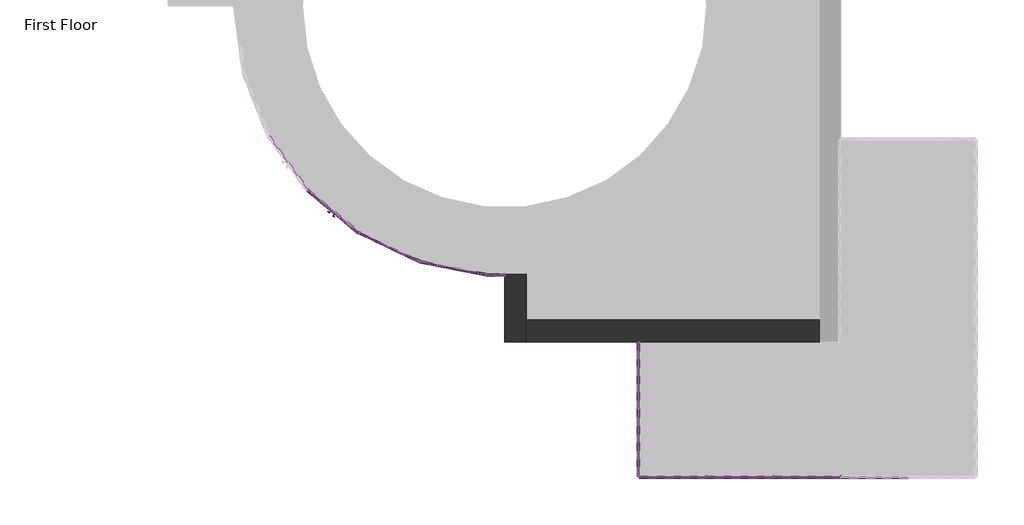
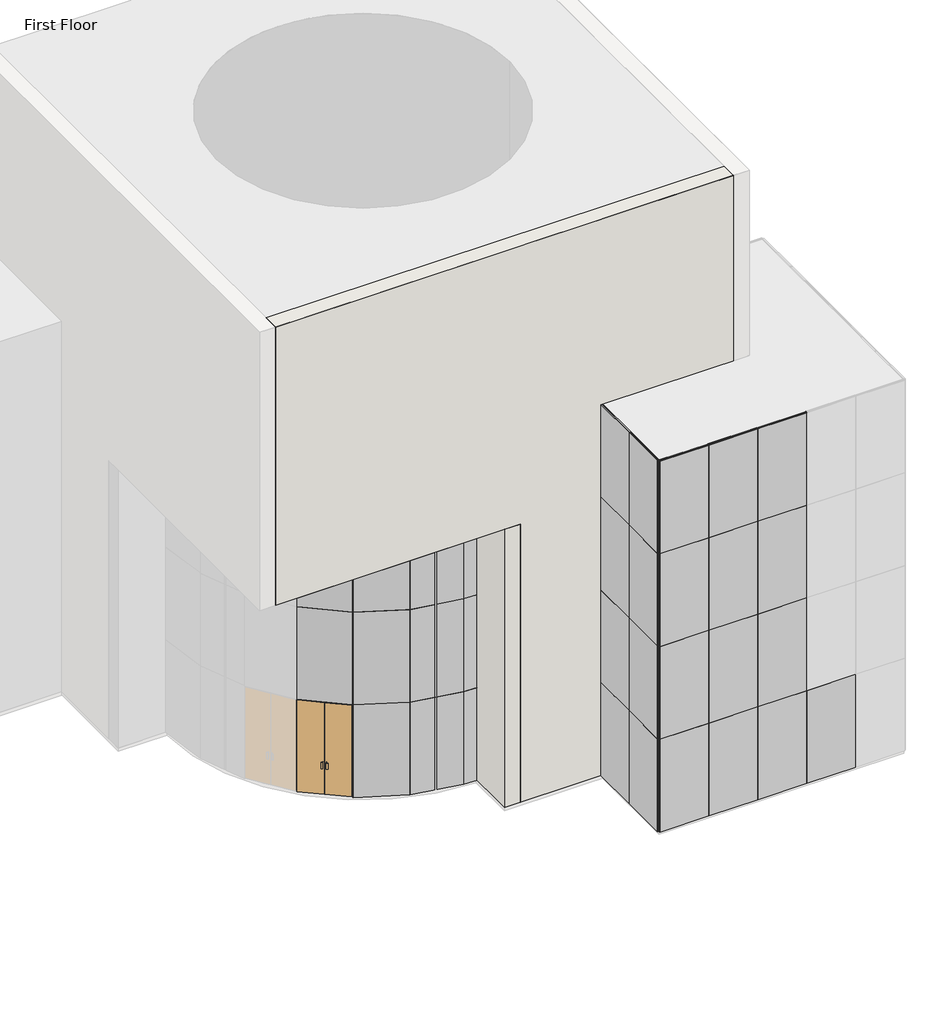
# One storey, part 1 of 4: 88 members, 32 plates, 2 walls, 1 door.
"""IFC4 building model written with IfcOpenShell, lengths in millimetres."""

from ifc_helpers import new_model, si_unit, origin, place, context, project, spatial, faceted_brep, transform, mapped, element, save
from components import door_curtain_wall_double_glass_door_curtain_wall_double_2d87b983, member_bc106393, member_cbdb9076, member_648f3f05, member_707bc92b, member_113f7001, member_7e523723, member_e16e0e7d, member_15743826, member_c4f80b05, member_9fd3d903, member_6604d1e0, system_panel_glazed_c0c5e10a, system_panel_glazed_21cc01a4

model = new_model("IFC4")

# Units and contexts
model_context = context("Model", 3, world=origin())
ifc_project = project(units=[si_unit("LENGTHUNIT", "METRE", prefix="MILLI")], contexts=[model_context])

# Site, building, storey
site = spatial("IfcSite", under=ifc_project)
building = spatial("IfcBuilding", under=site)
storey = spatial("IfcBuildingStorey", under=building, Name="First Floor", Elevation=0.0)

# Door
placement = place(None, origin())
door_curtain_wall_double_glass_door_curtain_wall_double_shape = door_curtain_wall_double_glass_door_curtain_wall_double_2d87b983(model_context)
element("IfcDoor", 1, ObjectType="Door-Curtain-Wall-Double-Glass : Door-Curtain-Wall-Double-Glass", at=placement, inside=storey, context=model_context, shape_type="MappedRepresentation", body=[
    mapped(door_curtain_wall_double_glass_door_curtain_wall_double_shape, transform((-7554.694628, -698.886035, 25.4), x_axis=(0.7690124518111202, -0.6392337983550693, 0.0), y_axis=(0.6392337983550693, 0.7690124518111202, 0.0), z_axis=(0.0, 0.0, 1.0))),
])

# Members
member_shape = member_bc106393(model_context)
element("IfcMember", 2, ObjectType="Rectangular Mullion : 1\" Square", at=placement, inside=storey, context=model_context, shape_type="MappedRepresentation", body=[
    mapped(member_shape, transform((-3713.8745683, -2142.9055451, 9144.0), x_axis=(0.0, 0.0, 1.0), y_axis=(-0.033424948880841, -0.999441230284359, 0.0), z_axis=(0.9994412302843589, -0.03342494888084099, 0.0))),
])
member_2_shape = member_cbdb9076(model_context)
element("IfcMember", 3, ObjectType="Rectangular Mullion : 1\" Square", at=placement, inside=storey, context=model_context, shape_type="MappedRepresentation", body=[
    mapped(member_2_shape, transform((-8140.6821163, -211.7898806, 0.0), x_axis=(0.6830766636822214, -0.7303466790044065, 0.0), y_axis=(-0.7303466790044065, -0.6830766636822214, 0.0), z_axis=(0.0, 0.0, -1.0))),
])
element("IfcMember", 4, ObjectType="Rectangular Mullion : 1\" Square", at=placement, inside=storey, context=model_context, shape_type="MappedRepresentation", body=[
    mapped(member_2_shape, transform((-6968.7071397, -1185.9821893, 0.0), x_axis=(0.8428851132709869, -0.538093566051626, 0.0), y_axis=(-0.538093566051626, -0.8428851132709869, 0.0), z_axis=(0.0, 0.0, -1.0))),
])
element("IfcMember", 5, ObjectType="Rectangular Mullion : 1\" Square", at=placement, inside=storey, context=model_context, shape_type="MappedRepresentation", body=[
    mapped(member_2_shape, transform((-5591.7185145, -1839.0352699, 0.0), x_axis=(0.9500132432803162, -0.3122096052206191, 0.0), y_axis=(-0.3122096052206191, -0.9500132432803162, 0.0), z_axis=(0.0, 0.0, -1.0))),
])
element("IfcMember", 6, ObjectType="Rectangular Mullion : 1\" Square", at=placement, inside=storey, context=model_context, shape_type="MappedRepresentation", body=[
    mapped(member_2_shape, transform((-4095.7780297, -2130.1333047, 0.0), x_axis=(0.9977655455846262, -0.06681254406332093, 0.0), y_axis=(-0.06681254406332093, -0.9977655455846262, 0.0), z_axis=(0.0, 0.0, -1.0))),
])
element("IfcMember", 7, ObjectType="Rectangular Mullion : 1\" Square", at=placement, inside=storey, context=model_context, shape_type="MappedRepresentation", body=[
    mapped(member_2_shape, transform((-640.4887611, -5191.7545391, 0.0), x_axis=(0.0, -1.0, 0.0), y_axis=(-1.0, 0.0, 0.0), z_axis=(0.0, 0.0, -1.0))),
])
element("IfcMember", 8, ObjectType="Rectangular Mullion : 1\" Square", at=placement, inside=storey, context=model_context, shape_type="MappedRepresentation", body=[
    mapped(member_2_shape, transform((883.5112392, -6715.7545388, 0.0), x_axis=(1.0, 0.0, 0.0), y_axis=(0.0, -1.0, 0.0), z_axis=(0.0, 0.0, -1.0))),
])
element("IfcMember", 9, ObjectType="Rectangular Mullion : 1\" Square", at=placement, inside=storey, context=model_context, shape_type="MappedRepresentation", body=[
    mapped(member_2_shape, transform((2407.5112392, -6715.7545388, 0.0), x_axis=(1.0, 0.0, 0.0), y_axis=(0.0, -1.0, 0.0), z_axis=(0.0, 0.0, -1.0))),
])
element("IfcMember", 10, ObjectType="Rectangular Mullion : 1\" Square", at=placement, inside=storey, context=model_context, shape_type="MappedRepresentation", body=[
    mapped(member_2_shape, transform((3931.5112392, -6715.7545388, 0.0), x_axis=(1.0, 0.0, 0.0), y_axis=(0.0, -1.0, 0.0), z_axis=(0.0, 0.0, -1.0))),
])
member_3_shape = member_648f3f05(model_context)
element("IfcMember", 11, ObjectType="Rectangular Mullion : 1\" Square", at=placement, inside=storey, context=model_context, shape_type="MappedRepresentation", body=[
    mapped(member_3_shape, transform((-8148.1297237, -201.502843, 3048.0), x_axis=(0.0, 0.0, 1.0), y_axis=(-0.8100029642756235, -0.5864257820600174, 0.0), z_axis=(0.5864257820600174, -0.8100029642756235, 0.0))),
])
element("IfcMember", 12, ObjectType="Rectangular Mullion : 1\" Square", at=placement, inside=storey, context=model_context, shape_type="MappedRepresentation", body=[
    mapped(member_3_shape, transform((-6978.4735978, -1177.8639201, 3048.0), x_axis=(0.0, 0.0, 1.0), y_axis=(-0.6392337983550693, -0.7690124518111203, 0.0), z_axis=(0.7690124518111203, -0.6392337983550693, 0.0))),
])
element("IfcMember", 13, ObjectType="Rectangular Mullion : 1\" Square", at=placement, inside=storey, context=model_context, shape_type="MappedRepresentation", body=[
    mapped(member_3_shape, transform((-5603.1934197, -1833.5931609, 3048.0), x_axis=(0.0, 0.0, 1.0), y_axis=(-0.42851252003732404, -0.9035358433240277, 0.0), z_axis=(0.9035358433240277, -0.42851252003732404, 0.0))),
])
element("IfcMember", 14, ObjectType="Rectangular Mullion : 1\" Square", at=placement, inside=storey, context=model_context, shape_type="MappedRepresentation", body=[
    mapped(member_3_shape, transform((-4108.2442004, -2127.7074878, 3048.0), x_axis=(0.0, 0.0, 1.0), y_axis=(-0.1910092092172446, -0.981588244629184, 0.0), z_axis=(0.981588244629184, -0.1910092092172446, 0.0))),
])
element("IfcMember", 15, ObjectType="Rectangular Mullion : 1\" Square", at=placement, inside=storey, context=model_context, shape_type="MappedRepresentation", body=[
    mapped(member_3_shape, transform((-8148.1297237, -201.502843, 6096.0), x_axis=(0.0, 0.0, 1.0), y_axis=(-0.8100029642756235, -0.5864257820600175, 0.0), z_axis=(0.5864257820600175, -0.8100029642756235, 0.0))),
])
element("IfcMember", 16, ObjectType="Rectangular Mullion : 1\" Square", at=placement, inside=storey, context=model_context, shape_type="MappedRepresentation", body=[
    mapped(member_3_shape, transform((-6978.4735978, -1177.8639201, 6096.0), x_axis=(0.0, 0.0, 1.0), y_axis=(-0.6392337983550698, -0.7690124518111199, 0.0), z_axis=(0.7690124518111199, -0.6392337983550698, 0.0))),
])
element("IfcMember", 17, ObjectType="Rectangular Mullion : 1\" Square", at=placement, inside=storey, context=model_context, shape_type="MappedRepresentation", body=[
    mapped(member_3_shape, transform((-5603.1934197, -1833.5931609, 6096.0), x_axis=(0.0, 0.0, 1.0), y_axis=(-0.42851252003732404, -0.9035358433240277, 0.0), z_axis=(0.9035358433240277, -0.42851252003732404, 0.0))),
])
element("IfcMember", 18, ObjectType="Rectangular Mullion : 1\" Square", at=placement, inside=storey, context=model_context, shape_type="MappedRepresentation", body=[
    mapped(member_3_shape, transform((-4108.2442004, -2127.7074878, 6096.0), x_axis=(0.0, 0.0, 1.0), y_axis=(-0.1910092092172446, -0.981588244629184, 0.0), z_axis=(0.981588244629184, -0.1910092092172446, 0.0))),
])
member_4_shape = member_707bc92b(model_context)
element("IfcMember", 19, ObjectType="Rectangular Mullion : 1\" Square", at=placement, inside=storey, context=model_context, shape_type="MappedRepresentation", body=[
    mapped(member_4_shape, transform((-3713.8745683, -2142.9055451, 3048.0), x_axis=(0.0, 0.0, 1.0), y_axis=(-0.033424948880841, -0.999441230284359, 0.0), z_axis=(0.9994412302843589, -0.03342494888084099, 0.0))),
])
element("IfcMember", 20, ObjectType="Rectangular Mullion : 1\" Square", at=placement, inside=storey, context=model_context, shape_type="MappedRepresentation", body=[
    mapped(member_4_shape, transform((-3713.8745683, -2142.9055451, 6096.0), x_axis=(0.0, 0.0, 1.0), y_axis=(-0.033424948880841, -0.999441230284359, 0.0), z_axis=(0.9994412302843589, -0.03342494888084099, 0.0))),
])
member_5_shape = member_113f7001(model_context)
element("IfcMember", 21, ObjectType="Rectangular Mullion : 1\" Square", at=placement, inside=storey, context=model_context, shape_type="MappedRepresentation", body=[
    mapped(member_5_shape, transform((-8130.9156581, -219.9081499, 0.0), x_axis=(0.0, 0.0, -1.0), y_axis=(-0.6392337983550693, -0.7690124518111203, 0.0), z_axis=(-0.7690124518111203, 0.6392337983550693, 0.0))),
])
element("IfcMember", 22, ObjectType="Rectangular Mullion : 1\" Square", at=placement, inside=storey, context=model_context, shape_type="MappedRepresentation", body=[
    mapped(member_5_shape, transform((-6957.2322345, -1191.4242983, 0.0), x_axis=(0.0, 0.0, -1.0), y_axis=(-0.42851252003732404, -0.9035358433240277, 0.0), z_axis=(-0.9035358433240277, 0.42851252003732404, 0.0))),
])
element("IfcMember", 23, ObjectType="Rectangular Mullion : 1\" Square", at=placement, inside=storey, context=model_context, shape_type="MappedRepresentation", body=[
    mapped(member_5_shape, transform((-5579.2523438, -1841.4610868, 0.0), x_axis=(0.0, 0.0, -1.0), y_axis=(-0.1910092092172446, -0.9815882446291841, 0.0), z_axis=(-0.9815882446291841, 0.1910092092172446, 0.0))),
])
element("IfcMember", 24, ObjectType="Rectangular Mullion : 1\" Square", at=placement, inside=storey, context=model_context, shape_type="MappedRepresentation", body=[
    mapped(member_shape, transform((-4083.085126, -2130.5578016, 0.0), x_axis=(0.0, 0.0, -1.0), y_axis=(-0.033424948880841, -0.999441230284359, 0.0), z_axis=(-0.9994412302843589, 0.03342494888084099, 0.0))),
])
element("IfcMember", 25, ObjectType="Rectangular Mullion : 1\" Square", at=placement, inside=storey, context=model_context, shape_type="MappedRepresentation", body=[
    mapped(member_5_shape, transform((-8148.1297237, -201.502843, 9144.0), x_axis=(0.0, 0.0, 1.0), y_axis=(-0.8100029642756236, -0.5864257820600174, 0.0), z_axis=(0.5864257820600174, -0.8100029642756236, 0.0))),
])
element("IfcMember", 26, ObjectType="Rectangular Mullion : 1\" Square", at=placement, inside=storey, context=model_context, shape_type="MappedRepresentation", body=[
    mapped(member_5_shape, transform((-6978.4735978, -1177.8639201, 9144.0), x_axis=(0.0, 0.0, 1.0), y_axis=(-0.6392337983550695, -0.7690124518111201, 0.0), z_axis=(0.7690124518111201, -0.6392337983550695, 0.0))),
])
element("IfcMember", 27, ObjectType="Rectangular Mullion : 1\" Square", at=placement, inside=storey, context=model_context, shape_type="MappedRepresentation", body=[
    mapped(member_5_shape, transform((-5603.1934197, -1833.5931609, 9144.0), x_axis=(0.0, 0.0, 1.0), y_axis=(-0.42851252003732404, -0.9035358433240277, 0.0), z_axis=(0.9035358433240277, -0.42851252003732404, 0.0))),
])
element("IfcMember", 28, ObjectType="Rectangular Mullion : 1\" Square", at=placement, inside=storey, context=model_context, shape_type="MappedRepresentation", body=[
    mapped(member_5_shape, transform((-4108.2442004, -2127.7074878, 9144.0), x_axis=(0.0, 0.0, 1.0), y_axis=(-0.1910092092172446, -0.9815882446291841, 0.0), z_axis=(0.9815882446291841, -0.1910092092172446, 0.0))),
])
element("IfcMember", 29, ObjectType="Rectangular Mullion : 1\" Square", at=placement, inside=storey, context=model_context, shape_type="MappedRepresentation", body=[
    mapped(member_2_shape, transform((-8140.6821163, -211.7898806, 3048.0), x_axis=(0.6830766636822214, -0.7303466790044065, 0.0), y_axis=(-0.7303466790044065, -0.6830766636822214, 0.0), z_axis=(0.0, 0.0, -1.0))),
])
element("IfcMember", 30, ObjectType="Rectangular Mullion : 1\" Square", at=placement, inside=storey, context=model_context, shape_type="MappedRepresentation", body=[
    mapped(member_2_shape, transform((-6968.7071397, -1185.9821893, 3048.0), x_axis=(0.8428851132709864, -0.5380935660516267, 0.0), y_axis=(-0.5380935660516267, -0.8428851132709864, 0.0), z_axis=(0.0, 0.0, -1.0))),
])
element("IfcMember", 31, ObjectType="Rectangular Mullion : 1\" Square", at=placement, inside=storey, context=model_context, shape_type="MappedRepresentation", body=[
    mapped(member_2_shape, transform((-5591.7185145, -1839.0352699, 3048.0), x_axis=(0.9500132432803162, -0.3122096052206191, 0.0), y_axis=(-0.3122096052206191, -0.9500132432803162, 0.0), z_axis=(0.0, 0.0, -1.0))),
])
element("IfcMember", 32, ObjectType="Rectangular Mullion : 1\" Square", at=placement, inside=storey, context=model_context, shape_type="MappedRepresentation", body=[
    mapped(member_2_shape, transform((-4095.7780297, -2130.1333047, 3048.0), x_axis=(0.9977655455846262, -0.06681254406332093, 0.0), y_axis=(-0.06681254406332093, -0.9977655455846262, 0.0), z_axis=(0.0, 0.0, -1.0))),
])
element("IfcMember", 33, ObjectType="Rectangular Mullion : 1\" Square", at=placement, inside=storey, context=model_context, shape_type="MappedRepresentation", body=[
    mapped(member_2_shape, transform((-640.4887611, -5191.7545391, 3048.0), x_axis=(0.0, -1.0, 0.0), y_axis=(-1.0, 0.0, 0.0), z_axis=(0.0, 0.0, -1.0))),
])
element("IfcMember", 34, ObjectType="Rectangular Mullion : 1\" Square", at=placement, inside=storey, context=model_context, shape_type="MappedRepresentation", body=[
    mapped(member_2_shape, transform((-640.4887611, -5191.7545391, 6096.0), x_axis=(0.0, -1.0, 0.0), y_axis=(-1.0, 0.0, 0.0), z_axis=(0.0, 0.0, -1.0))),
])
element("IfcMember", 35, ObjectType="Rectangular Mullion : 1\" Square", at=placement, inside=storey, context=model_context, shape_type="MappedRepresentation", body=[
    mapped(member_2_shape, transform((883.5112392, -6715.7545388, 3048.0), x_axis=(1.0, 0.0, 0.0), y_axis=(0.0, -1.0, 0.0), z_axis=(0.0, 0.0, -1.0))),
])
element("IfcMember", 36, ObjectType="Rectangular Mullion : 1\" Square", at=placement, inside=storey, context=model_context, shape_type="MappedRepresentation", body=[
    mapped(member_2_shape, transform((883.5112392, -6715.7545388, 6096.0), x_axis=(1.0, 0.0, 0.0), y_axis=(0.0, -1.0, 0.0), z_axis=(0.0, 0.0, -1.0))),
])
element("IfcMember", 37, ObjectType="Rectangular Mullion : 1\" Square", at=placement, inside=storey, context=model_context, shape_type="MappedRepresentation", body=[
    mapped(member_2_shape, transform((2407.5112392, -6715.7545388, 3048.0), x_axis=(1.0, 0.0, 0.0), y_axis=(0.0, -1.0, 0.0), z_axis=(0.0, 0.0, -1.0))),
])
element("IfcMember", 38, ObjectType="Rectangular Mullion : 1\" Square", at=placement, inside=storey, context=model_context, shape_type="MappedRepresentation", body=[
    mapped(member_2_shape, transform((2407.5112392, -6715.7545388, 6096.0), x_axis=(1.0, 0.0, 0.0), y_axis=(0.0, -1.0, 0.0), z_axis=(0.0, 0.0, -1.0))),
])
element("IfcMember", 39, ObjectType="Rectangular Mullion : 1\" Square", at=placement, inside=storey, context=model_context, shape_type="MappedRepresentation", body=[
    mapped(member_2_shape, transform((3931.5112392, -6715.7545388, 3048.0), x_axis=(1.0, 0.0, 0.0), y_axis=(0.0, -1.0, 0.0), z_axis=(0.0, 0.0, -1.0))),
])
element("IfcMember", 40, ObjectType="Rectangular Mullion : 1\" Square", at=placement, inside=storey, context=model_context, shape_type="MappedRepresentation", body=[
    mapped(member_2_shape, transform((3931.5112392, -6715.7545388, 6096.0), x_axis=(1.0, 0.0, 0.0), y_axis=(0.0, -1.0, 0.0), z_axis=(0.0, 0.0, -1.0))),
])
element("IfcMember", 41, ObjectType="Rectangular Mullion : 1\" Square", at=placement, inside=storey, context=model_context, shape_type="MappedRepresentation", body=[
    mapped(member_2_shape, transform((-8140.6821163, -211.7898806, 6096.0), x_axis=(0.6830766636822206, -0.7303466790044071, 0.0), y_axis=(-0.7303466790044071, -0.6830766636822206, 0.0), z_axis=(0.0, 0.0, -1.0))),
])
element("IfcMember", 42, ObjectType="Rectangular Mullion : 1\" Square", at=placement, inside=storey, context=model_context, shape_type="MappedRepresentation", body=[
    mapped(member_2_shape, transform((-6968.7071397, -1185.9821893, 6096.0), x_axis=(0.8428851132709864, -0.5380935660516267, 0.0), y_axis=(-0.5380935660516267, -0.8428851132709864, 0.0), z_axis=(0.0, 0.0, -1.0))),
])
element("IfcMember", 43, ObjectType="Rectangular Mullion : 1\" Square", at=placement, inside=storey, context=model_context, shape_type="MappedRepresentation", body=[
    mapped(member_2_shape, transform((-5591.7185145, -1839.0352699, 6096.0), x_axis=(0.9500132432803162, -0.3122096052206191, 0.0), y_axis=(-0.3122096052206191, -0.9500132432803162, 0.0), z_axis=(0.0, 0.0, -1.0))),
])
element("IfcMember", 44, ObjectType="Rectangular Mullion : 1\" Square", at=placement, inside=storey, context=model_context, shape_type="MappedRepresentation", body=[
    mapped(member_2_shape, transform((-4095.7780297, -2130.1333047, 6096.0), x_axis=(0.9977655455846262, -0.06681254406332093, 0.0), y_axis=(-0.06681254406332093, -0.9977655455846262, 0.0), z_axis=(0.0, 0.0, -1.0))),
])
element("IfcMember", 45, ObjectType="Rectangular Mullion : 1\" Square", at=placement, inside=storey, context=model_context, shape_type="MappedRepresentation", body=[
    mapped(member_2_shape, transform((-640.4887611, -5191.7545391, 9144.0), x_axis=(0.0, -1.0, 0.0), y_axis=(-1.0, 0.0, 0.0), z_axis=(0.0, 0.0, -1.0))),
])
element("IfcMember", 46, ObjectType="Rectangular Mullion : 1\" Square", at=placement, inside=storey, context=model_context, shape_type="MappedRepresentation", body=[
    mapped(member_2_shape, transform((883.5112392, -6715.7545388, 9144.0), x_axis=(1.0, 0.0, 0.0), y_axis=(0.0, -1.0, 0.0), z_axis=(0.0, 0.0, -1.0))),
])
element("IfcMember", 47, ObjectType="Rectangular Mullion : 1\" Square", at=placement, inside=storey, context=model_context, shape_type="MappedRepresentation", body=[
    mapped(member_2_shape, transform((2407.5112392, -6715.7545388, 9144.0), x_axis=(1.0, 0.0, 0.0), y_axis=(0.0, -1.0, 0.0), z_axis=(0.0, 0.0, -1.0))),
])
element("IfcMember", 48, ObjectType="Rectangular Mullion : 1\" Square", at=placement, inside=storey, context=model_context, shape_type="MappedRepresentation", body=[
    mapped(member_2_shape, transform((3931.5112392, -6715.7545388, 9144.0), x_axis=(1.0, 0.0, 0.0), y_axis=(0.0, -1.0, 0.0), z_axis=(0.0, 0.0, -1.0))),
])
member_6_shape = member_7e523723(model_context)
element("IfcMember", 49, ObjectType="Rectangular Mullion : 1\" Square", at=placement, inside=storey, context=model_context, shape_type="MappedRepresentation", body=[
    mapped(member_6_shape, transform((-3688.4887611, -2143.7545388, 0.0), x_axis=(0.999441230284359, -0.033424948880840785, 0.0), y_axis=(-0.033424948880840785, -0.999441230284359, 0.0), z_axis=(0.0, 0.0, -1.0))),
])
element("IfcMember", 50, ObjectType="Rectangular Mullion : 1\" Square", at=placement, inside=storey, context=model_context, shape_type="MappedRepresentation", body=[
    mapped(member_6_shape, transform((-640.4887611, -6715.7545388, 0.0), x_axis=(0.0, -1.0, 0.0), y_axis=(-1.0, 0.0, 0.0), z_axis=(0.0, 0.0, -1.0))),
])
element("IfcMember", 51, ObjectType="Rectangular Mullion : 1\" Square", at=placement, inside=storey, context=model_context, shape_type="MappedRepresentation", body=[
    mapped(member_6_shape, transform((-640.4887611, -3667.7545388, 12192.0), x_axis=(0.0, 1.0, 0.0), y_axis=(-1.0, 0.0, 0.0), z_axis=(0.0, 0.0, 1.0))),
])
element("IfcMember", 52, ObjectType="Rectangular Mullion : 1\" Square", at=placement, inside=storey, context=model_context, shape_type="MappedRepresentation", body=[
    mapped(member_6_shape, transform((-640.4887611, -6715.7545388, 12192.0), x_axis=(-1.0, 0.0, 0.0), y_axis=(0.0, -1.0, 0.0), z_axis=(0.0, 0.0, 1.0))),
])
element("IfcMember", 53, ObjectType="Rectangular Mullion : 1\" Square", at=placement, inside=storey, context=model_context, shape_type="MappedRepresentation", body=[
    mapped(member_6_shape, transform((-640.4887611, -3667.7545388, 3048.0), x_axis=(0.0, 1.0, 0.0), y_axis=(-1.0, 0.0, 0.0), z_axis=(0.0, 0.0, 1.0))),
])
element("IfcMember", 54, ObjectType="Rectangular Mullion : 1\" Square", at=placement, inside=storey, context=model_context, shape_type="MappedRepresentation", body=[
    mapped(member_6_shape, transform((-640.4887611, -6715.7545388, 3048.0), x_axis=(-1.0, 0.0, 0.0), y_axis=(0.0, -1.0, 0.0), z_axis=(0.0, 0.0, 1.0))),
])
element("IfcMember", 55, ObjectType="Rectangular Mullion : 1\" Square", at=placement, inside=storey, context=model_context, shape_type="MappedRepresentation", body=[
    mapped(member_6_shape, transform((-640.4887611, -3667.7545388, 6096.0), x_axis=(0.0, 1.0, 0.0), y_axis=(-1.0, 0.0, 0.0), z_axis=(0.0, 0.0, 1.0))),
])
element("IfcMember", 56, ObjectType="Rectangular Mullion : 1\" Square", at=placement, inside=storey, context=model_context, shape_type="MappedRepresentation", body=[
    mapped(member_6_shape, transform((-640.4887611, -3667.7545388, 9144.0), x_axis=(0.0, 1.0, 0.0), y_axis=(-1.0, 0.0, 0.0), z_axis=(0.0, 0.0, 1.0))),
])
element("IfcMember", 57, ObjectType="Rectangular Mullion : 1\" Square", at=placement, inside=storey, context=model_context, shape_type="MappedRepresentation", body=[
    mapped(member_6_shape, transform((-640.4887611, -6715.7545388, 6096.0), x_axis=(-1.0, 0.0, 0.0), y_axis=(0.0, -1.0, 0.0), z_axis=(0.0, 0.0, 1.0))),
])
element("IfcMember", 58, ObjectType="Rectangular Mullion : 1\" Square", at=placement, inside=storey, context=model_context, shape_type="MappedRepresentation", body=[
    mapped(member_6_shape, transform((-640.4887611, -6715.7545388, 9144.0), x_axis=(-1.0, 0.0, 0.0), y_axis=(0.0, -1.0, 0.0), z_axis=(0.0, 0.0, 1.0))),
])
element("IfcMember", 59, ObjectType="Rectangular Mullion : 1\" Square", at=placement, inside=storey, context=model_context, shape_type="MappedRepresentation", body=[
    mapped(member_6_shape, transform((-3688.4887611, -2143.7545388, 3048.0), x_axis=(0.999441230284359, -0.033424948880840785, 0.0), y_axis=(-0.033424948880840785, -0.999441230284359, 0.0), z_axis=(0.0, 0.0, -1.0))),
])
element("IfcMember", 60, ObjectType="Rectangular Mullion : 1\" Square", at=placement, inside=storey, context=model_context, shape_type="MappedRepresentation", body=[
    mapped(member_6_shape, transform((-640.4887611, -6715.7545388, 3048.0), x_axis=(0.0, -1.0, 0.0), y_axis=(-1.0, 0.0, 0.0), z_axis=(0.0, 0.0, -1.0))),
])
element("IfcMember", 61, ObjectType="Rectangular Mullion : 1\" Square", at=placement, inside=storey, context=model_context, shape_type="MappedRepresentation", body=[
    mapped(member_6_shape, transform((-640.4887611, -6715.7545388, 6096.0), x_axis=(0.0, -1.0, 0.0), y_axis=(-1.0, 0.0, 0.0), z_axis=(0.0, 0.0, -1.0))),
])
element("IfcMember", 62, ObjectType="Rectangular Mullion : 1\" Square", at=placement, inside=storey, context=model_context, shape_type="MappedRepresentation", body=[
    mapped(member_6_shape, transform((-3688.4887611, -2143.7545388, 6096.0), x_axis=(0.999441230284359, -0.033424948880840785, 0.0), y_axis=(-0.033424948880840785, -0.999441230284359, 0.0), z_axis=(0.0, 0.0, -1.0))),
])
element("IfcMember", 63, ObjectType="Rectangular Mullion : 1\" Square", at=placement, inside=storey, context=model_context, shape_type="MappedRepresentation", body=[
    mapped(member_6_shape, transform((-640.4887611, -6715.7545388, 9144.0), x_axis=(0.0, -1.0, 0.0), y_axis=(-1.0, 0.0, 0.0), z_axis=(0.0, 0.0, -1.0))),
])
member_7_shape = member_e16e0e7d(model_context)
element("IfcMember", 64, ObjectType="Rectangular Mullion : 1\" Square", at=placement, inside=storey, context=model_context, shape_type="MappedRepresentation", body=[
    mapped(member_7_shape, transform((-640.4887611, -6690.3545388, 12192.0), x_axis=(0.0, 0.0, 1.0), y_axis=(-1.0, 0.0, 0.0), z_axis=(0.0, -1.0, 0.0))),
])
element("IfcMember", 65, ObjectType="Rectangular Mullion : 1\" Square", at=placement, inside=storey, context=model_context, shape_type="MappedRepresentation", body=[
    mapped(member_7_shape, transform((-640.4887611, -5179.0545391, 12192.0), x_axis=(0.0, 0.0, 1.0), y_axis=(-1.0, 0.0, 0.0), z_axis=(0.0, -1.0, 0.0))),
])
element("IfcMember", 66, ObjectType="Rectangular Mullion : 1\" Square", at=placement, inside=storey, context=model_context, shape_type="MappedRepresentation", body=[
    mapped(member_7_shape, transform((870.8112392, -6715.7545388, 12192.0), x_axis=(0.0, 0.0, 1.0), y_axis=(0.0, -1.0, 0.0), z_axis=(1.0, 0.0, 0.0))),
])
member_8_shape = member_15743826(model_context)
element("IfcMember", 67, ObjectType="Rectangular Mullion : 1\" Square", at=placement, inside=storey, context=model_context, shape_type="MappedRepresentation", body=[
    mapped(member_8_shape, transform((-640.4887611, -3693.1545388, 0.0), x_axis=(0.0, 0.0, -1.0), y_axis=(-1.0, 0.0, 0.0), z_axis=(0.0, 1.0, 0.0))),
])
element("IfcMember", 68, ObjectType="Rectangular Mullion : 1\" Square", at=placement, inside=storey, context=model_context, shape_type="MappedRepresentation", body=[
    mapped(member_8_shape, transform((-640.4887611, -5204.4545391, 0.0), x_axis=(0.0, 0.0, -1.0), y_axis=(-1.0, 0.0, 0.0), z_axis=(0.0, 1.0, 0.0))),
])
element("IfcMember", 69, ObjectType="Rectangular Mullion : 1\" Square", at=placement, inside=storey, context=model_context, shape_type="MappedRepresentation", body=[
    mapped(member_8_shape, transform((-615.0887611, -6715.7545388, 0.0), x_axis=(0.0, 0.0, -1.0), y_axis=(0.0, -1.0, 0.0), z_axis=(-1.0, 0.0, 0.0))),
])
member_9_shape = member_c4f80b05(model_context)
element("IfcMember", 70, ObjectType="Rectangular Mullion : 1\" Square", at=placement, inside=storey, context=model_context, shape_type="MappedRepresentation", body=[
    mapped(member_9_shape, transform((-640.4887611, -5179.0545391, 3048.0), x_axis=(0.0, 0.0, 1.0), y_axis=(-1.0, 0.0, 0.0), z_axis=(0.0, -1.0, 0.0))),
])
element("IfcMember", 71, ObjectType="Rectangular Mullion : 1\" Square", at=placement, inside=storey, context=model_context, shape_type="MappedRepresentation", body=[
    mapped(member_9_shape, transform((-640.4887611, -6690.3545388, 3048.0), x_axis=(0.0, 0.0, 1.0), y_axis=(-1.0, 0.0, 0.0), z_axis=(0.0, -1.0, 0.0))),
])
element("IfcMember", 72, ObjectType="Rectangular Mullion : 1\" Square", at=placement, inside=storey, context=model_context, shape_type="MappedRepresentation", body=[
    mapped(member_9_shape, transform((-640.4887611, -5179.0545391, 6096.0), x_axis=(0.0, 0.0, 1.0), y_axis=(-1.0, 0.0, 0.0), z_axis=(0.0, -1.0, 0.0))),
])
element("IfcMember", 73, ObjectType="Rectangular Mullion : 1\" Square", at=placement, inside=storey, context=model_context, shape_type="MappedRepresentation", body=[
    mapped(member_9_shape, transform((-640.4887611, -6690.3545388, 6096.0), x_axis=(0.0, 0.0, 1.0), y_axis=(-1.0, 0.0, 0.0), z_axis=(0.0, -1.0, 0.0))),
])
element("IfcMember", 74, ObjectType="Rectangular Mullion : 1\" Square", at=placement, inside=storey, context=model_context, shape_type="MappedRepresentation", body=[
    mapped(member_9_shape, transform((-640.4887611, -5179.0545391, 9144.0), x_axis=(0.0, 0.0, 1.0), y_axis=(-1.0, 0.0, 0.0), z_axis=(0.0, -1.0, 0.0))),
])
element("IfcMember", 75, ObjectType="Rectangular Mullion : 1\" Square", at=placement, inside=storey, context=model_context, shape_type="MappedRepresentation", body=[
    mapped(member_9_shape, transform((-640.4887611, -6690.3545388, 9144.0), x_axis=(0.0, 0.0, 1.0), y_axis=(-1.0, 0.0, 0.0), z_axis=(0.0, -1.0, 0.0))),
])
element("IfcMember", 76, ObjectType="Rectangular Mullion : 1\" Square", at=placement, inside=storey, context=model_context, shape_type="MappedRepresentation", body=[
    mapped(member_9_shape, transform((870.8112392, -6715.7545388, 3048.0), x_axis=(0.0, 0.0, 1.0), y_axis=(0.0, -1.0, 0.0), z_axis=(1.0, 0.0, 0.0))),
])
element("IfcMember", 77, ObjectType="Rectangular Mullion : 1\" Square", at=placement, inside=storey, context=model_context, shape_type="MappedRepresentation", body=[
    mapped(member_9_shape, transform((870.8112392, -6715.7545388, 6096.0), x_axis=(0.0, 0.0, 1.0), y_axis=(0.0, -1.0, 0.0), z_axis=(1.0, 0.0, 0.0))),
])
element("IfcMember", 78, ObjectType="Rectangular Mullion : 1\" Square", at=placement, inside=storey, context=model_context, shape_type="MappedRepresentation", body=[
    mapped(member_9_shape, transform((870.8112392, -6715.7545388, 9144.0), x_axis=(0.0, 0.0, 1.0), y_axis=(0.0, -1.0, 0.0), z_axis=(1.0, 0.0, 0.0))),
])
member_10_shape = member_9fd3d903(model_context)
element("IfcMember", 79, ObjectType="Rectangular Mullion : 1\" Square", at=placement, inside=storey, context=model_context, shape_type="MappedRepresentation", body=[
    mapped(member_10_shape, transform((2394.8112392, -6715.7545388, 3048.0), x_axis=(0.0, 0.0, 1.0), y_axis=(0.0, -1.0, 0.0), z_axis=(1.0, 0.0, 0.0))),
])
element("IfcMember", 80, ObjectType="Rectangular Mullion : 1\" Square", at=placement, inside=storey, context=model_context, shape_type="MappedRepresentation", body=[
    mapped(member_10_shape, transform((3918.8112392, -6715.7545388, 3048.0), x_axis=(0.0, 0.0, 1.0), y_axis=(0.0, -1.0, 0.0), z_axis=(1.0, 0.0, 0.0))),
])
element("IfcMember", 81, ObjectType="Rectangular Mullion : 1\" Square", at=placement, inside=storey, context=model_context, shape_type="MappedRepresentation", body=[
    mapped(member_10_shape, transform((2394.8112392, -6715.7545388, 6096.0), x_axis=(0.0, 0.0, 1.0), y_axis=(0.0, -1.0, 0.0), z_axis=(1.0, 0.0, 0.0))),
])
element("IfcMember", 82, ObjectType="Rectangular Mullion : 1\" Square", at=placement, inside=storey, context=model_context, shape_type="MappedRepresentation", body=[
    mapped(member_10_shape, transform((3918.8112392, -6715.7545388, 6096.0), x_axis=(0.0, 0.0, 1.0), y_axis=(0.0, -1.0, 0.0), z_axis=(1.0, 0.0, 0.0))),
])
element("IfcMember", 83, ObjectType="Rectangular Mullion : 1\" Square", at=placement, inside=storey, context=model_context, shape_type="MappedRepresentation", body=[
    mapped(member_10_shape, transform((2394.8112392, -6715.7545388, 9144.0), x_axis=(0.0, 0.0, 1.0), y_axis=(0.0, -1.0, 0.0), z_axis=(1.0, 0.0, 0.0))),
])
element("IfcMember", 84, ObjectType="Rectangular Mullion : 1\" Square", at=placement, inside=storey, context=model_context, shape_type="MappedRepresentation", body=[
    mapped(member_10_shape, transform((3918.8112392, -6715.7545388, 9144.0), x_axis=(0.0, 0.0, 1.0), y_axis=(0.0, -1.0, 0.0), z_axis=(1.0, 0.0, 0.0))),
])
member_11_shape = member_6604d1e0(model_context)
element("IfcMember", 85, ObjectType="Rectangular Mullion : 1\" Square", at=placement, inside=storey, context=model_context, shape_type="MappedRepresentation", body=[
    mapped(member_11_shape, transform((896.2112392, -6715.7545388, 0.0), x_axis=(0.0, 0.0, -1.0), y_axis=(0.0, -1.0, 0.0), z_axis=(-1.0, 0.0, 0.0))),
])
element("IfcMember", 86, ObjectType="Rectangular Mullion : 1\" Square", at=placement, inside=storey, context=model_context, shape_type="MappedRepresentation", body=[
    mapped(member_11_shape, transform((2420.2112392, -6715.7545388, 0.0), x_axis=(0.0, 0.0, -1.0), y_axis=(0.0, -1.0, 0.0), z_axis=(-1.0, 0.0, 0.0))),
])
element("IfcMember", 87, ObjectType="Rectangular Mullion : 1\" Square", at=placement, inside=storey, context=model_context, shape_type="MappedRepresentation", body=[
    mapped(member_11_shape, transform((3944.2112392, -6715.7545388, 0.0), x_axis=(0.0, 0.0, -1.0), y_axis=(0.0, -1.0, 0.0), z_axis=(-1.0, 0.0, 0.0))),
])
element("IfcMember", 88, ObjectType="Rectangular Mullion : 1\" Square", at=placement, inside=storey, context=model_context, shape_type="MappedRepresentation", body=[
    mapped(member_11_shape, transform((2394.8112392, -6715.7545388, 12192.0), x_axis=(0.0, 0.0, 1.0), y_axis=(0.0, -1.0, 0.0), z_axis=(1.0, 0.0, 0.0))),
])
element("IfcMember", 89, ObjectType="Rectangular Mullion : 1\" Square", at=placement, inside=storey, context=model_context, shape_type="MappedRepresentation", body=[
    mapped(member_11_shape, transform((3918.8112392, -6715.7545388, 12192.0), x_axis=(0.0, 0.0, 1.0), y_axis=(0.0, -1.0, 0.0), z_axis=(1.0, 0.0, 0.0))),
])

# Plates
system_panel_glazed_shape = system_panel_glazed_c0c5e10a(model_context)
element("IfcPlate", 90, ObjectType="System Panel : Glazed", at=placement, inside=storey, context=model_context, shape_type="MappedRepresentation", body=[
    mapped(system_panel_glazed_shape, transform((121.5112391, -6715.7545388, 0.0), x_axis=(1.0, 0.0, 0.0), y_axis=(0.0, 1.0, 0.0), z_axis=(0.0, 0.0, 1.0))),
])
element("IfcPlate", 91, ObjectType="System Panel : Glazed", at=placement, inside=storey, context=model_context, shape_type="MappedRepresentation", body=[
    mapped(system_panel_glazed_shape, transform((1645.5112392, -6715.7545388, 0.0), x_axis=(1.0, 0.0, 0.0), y_axis=(0.0, 1.0, 0.0), z_axis=(0.0, 0.0, 1.0))),
])
element("IfcPlate", 92, ObjectType="System Panel : Glazed", at=placement, inside=storey, context=model_context, shape_type="MappedRepresentation", body=[
    mapped(system_panel_glazed_shape, transform((3169.5112392, -6715.7545388, 0.0), x_axis=(1.0, 0.0, 0.0), y_axis=(0.0, 1.0, 0.0), z_axis=(0.0, 0.0, 1.0))),
])
element("IfcPlate", 93, ObjectType="System Panel : Glazed", at=placement, inside=storey, context=model_context, shape_type="MappedRepresentation", body=[
    mapped(system_panel_glazed_shape, transform((4693.5112392, -6715.7545388, 0.0), x_axis=(1.0, 0.0, 0.0), y_axis=(0.0, 1.0, 0.0), z_axis=(0.0, 0.0, 1.0))),
])
element("IfcPlate", 94, ObjectType="System Panel : Glazed", at=placement, inside=storey, context=model_context, shape_type="MappedRepresentation", body=[
    mapped(system_panel_glazed_shape, transform((121.5112391, -6715.7545388, 3048.0), x_axis=(1.0, 0.0, 0.0), y_axis=(0.0, 1.0, 0.0), z_axis=(0.0, 0.0, 1.0))),
])
element("IfcPlate", 95, ObjectType="System Panel : Glazed", at=placement, inside=storey, context=model_context, shape_type="MappedRepresentation", body=[
    mapped(system_panel_glazed_shape, transform((1645.5112392, -6715.7545388, 3048.0), x_axis=(1.0, 0.0, 0.0), y_axis=(0.0, 1.0, 0.0), z_axis=(0.0, 0.0, 1.0))),
])
element("IfcPlate", 96, ObjectType="System Panel : Glazed", at=placement, inside=storey, context=model_context, shape_type="MappedRepresentation", body=[
    mapped(system_panel_glazed_shape, transform((3169.5112392, -6715.7545388, 3048.0), x_axis=(1.0, 0.0, 0.0), y_axis=(0.0, 1.0, 0.0), z_axis=(0.0, 0.0, 1.0))),
])
element("IfcPlate", 97, ObjectType="System Panel : Glazed", at=placement, inside=storey, context=model_context, shape_type="MappedRepresentation", body=[
    mapped(system_panel_glazed_shape, transform((121.5112391, -6715.7545388, 6096.0), x_axis=(1.0, 0.0, 0.0), y_axis=(0.0, 1.0, 0.0), z_axis=(0.0, 0.0, 1.0))),
])
element("IfcPlate", 98, ObjectType="System Panel : Glazed", at=placement, inside=storey, context=model_context, shape_type="MappedRepresentation", body=[
    mapped(system_panel_glazed_shape, transform((1645.5112392, -6715.7545388, 6096.0), x_axis=(1.0, 0.0, 0.0), y_axis=(0.0, 1.0, 0.0), z_axis=(0.0, 0.0, 1.0))),
])
element("IfcPlate", 99, ObjectType="System Panel : Glazed", at=placement, inside=storey, context=model_context, shape_type="MappedRepresentation", body=[
    mapped(system_panel_glazed_shape, transform((3169.5112392, -6715.7545388, 6096.0), x_axis=(1.0, 0.0, 0.0), y_axis=(0.0, 1.0, 0.0), z_axis=(0.0, 0.0, 1.0))),
])
element("IfcPlate", 100, ObjectType="System Panel : Glazed", at=placement, inside=storey, context=model_context, shape_type="MappedRepresentation", body=[
    mapped(system_panel_glazed_shape, transform((121.5112391, -6715.7545388, 9144.0), x_axis=(1.0, 0.0, 0.0), y_axis=(0.0, 1.0, 0.0), z_axis=(0.0, 0.0, 1.0))),
])
element("IfcPlate", 101, ObjectType="System Panel : Glazed", at=placement, inside=storey, context=model_context, shape_type="MappedRepresentation", body=[
    mapped(system_panel_glazed_shape, transform((1645.5112392, -6715.7545388, 9144.0), x_axis=(1.0, 0.0, 0.0), y_axis=(0.0, 1.0, 0.0), z_axis=(0.0, 0.0, 1.0))),
])
element("IfcPlate", 102, ObjectType="System Panel : Glazed", at=placement, inside=storey, context=model_context, shape_type="MappedRepresentation", body=[
    mapped(system_panel_glazed_shape, transform((3169.5112392, -6715.7545388, 9144.0), x_axis=(1.0, 0.0, 0.0), y_axis=(0.0, 1.0, 0.0), z_axis=(0.0, 0.0, 1.0))),
])
element("IfcPlate", 103, ObjectType="System Panel : Glazed", at=placement, inside=storey, context=model_context, shape_type="MappedRepresentation", body=[
    mapped(system_panel_glazed_shape, transform((-640.4887611, -4429.754539, 0.0), x_axis=(0.0, -1.0, 0.0), y_axis=(1.0, 0.0, 0.0), z_axis=(0.0, 0.0, 1.0))),
])
element("IfcPlate", 104, ObjectType="System Panel : Glazed", at=placement, inside=storey, context=model_context, shape_type="MappedRepresentation", body=[
    mapped(system_panel_glazed_shape, transform((-640.4887611, -5953.754539, 0.0), x_axis=(0.0, -1.0, 0.0), y_axis=(1.0, 0.0, 0.0), z_axis=(0.0, 0.0, 1.0))),
])
element("IfcPlate", 105, ObjectType="System Panel : Glazed", at=placement, inside=storey, context=model_context, shape_type="MappedRepresentation", body=[
    mapped(system_panel_glazed_shape, transform((-640.4887611, -4429.754539, 3048.0), x_axis=(0.0, -1.0, 0.0), y_axis=(1.0, 0.0, 0.0), z_axis=(0.0, 0.0, 1.0))),
])
element("IfcPlate", 106, ObjectType="System Panel : Glazed", at=placement, inside=storey, context=model_context, shape_type="MappedRepresentation", body=[
    mapped(system_panel_glazed_shape, transform((-640.4887611, -5953.754539, 3048.0), x_axis=(0.0, -1.0, 0.0), y_axis=(1.0, 0.0, 0.0), z_axis=(0.0, 0.0, 1.0))),
])
element("IfcPlate", 107, ObjectType="System Panel : Glazed", at=placement, inside=storey, context=model_context, shape_type="MappedRepresentation", body=[
    mapped(system_panel_glazed_shape, transform((-640.4887611, -4429.754539, 6096.0), x_axis=(0.0, -1.0, 0.0), y_axis=(1.0, 0.0, 0.0), z_axis=(0.0, 0.0, 1.0))),
])
element("IfcPlate", 108, ObjectType="System Panel : Glazed", at=placement, inside=storey, context=model_context, shape_type="MappedRepresentation", body=[
    mapped(system_panel_glazed_shape, transform((-640.4887611, -5953.754539, 6096.0), x_axis=(0.0, -1.0, 0.0), y_axis=(1.0, 0.0, 0.0), z_axis=(0.0, 0.0, 1.0))),
])
element("IfcPlate", 109, ObjectType="System Panel : Glazed", at=placement, inside=storey, context=model_context, shape_type="MappedRepresentation", body=[
    mapped(system_panel_glazed_shape, transform((-640.4887611, -4429.754539, 9144.0), x_axis=(0.0, -1.0, 0.0), y_axis=(1.0, 0.0, 0.0), z_axis=(0.0, 0.0, 1.0))),
])
element("IfcPlate", 110, ObjectType="System Panel : Glazed", at=placement, inside=storey, context=model_context, shape_type="MappedRepresentation", body=[
    mapped(system_panel_glazed_shape, transform((-640.4887611, -5953.754539, 9144.0), x_axis=(0.0, -1.0, 0.0), y_axis=(1.0, 0.0, 0.0), z_axis=(0.0, 0.0, 1.0))),
])
element("IfcPlate", 111, ObjectType="System Panel : Glazed", at=placement, inside=storey, context=model_context, shape_type="MappedRepresentation", body=[
    mapped(system_panel_glazed_shape, transform((-6280.2128271, -1512.5087296, 0.0), x_axis=(0.9035358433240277, -0.4285125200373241, 0.0), y_axis=(0.4285125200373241, 0.9035358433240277, 0.0), z_axis=(0.0, 0.0, 1.0))),
])
element("IfcPlate", 112, ObjectType="System Panel : Glazed", at=placement, inside=storey, context=model_context, shape_type="MappedRepresentation", body=[
    mapped(system_panel_glazed_shape, transform((-4843.7482721, -1984.5842873, 0.0), x_axis=(0.9815882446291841, -0.19100920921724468, 0.0), y_axis=(0.19100920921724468, 0.9815882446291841, 0.0), z_axis=(0.0, 0.0, 1.0))),
])
element("IfcPlate", 113, ObjectType="System Panel : Glazed", at=placement, inside=storey, context=model_context, shape_type="MappedRepresentation", body=[
    mapped(system_panel_glazed_shape, transform((-7554.694628, -698.886035, 3048.0), x_axis=(0.7690124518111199, -0.6392337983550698, 0.0), y_axis=(0.6392337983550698, 0.7690124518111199, 0.0), z_axis=(0.0, 0.0, 1.0))),
])
element("IfcPlate", 114, ObjectType="System Panel : Glazed", at=placement, inside=storey, context=model_context, shape_type="MappedRepresentation", body=[
    mapped(system_panel_glazed_shape, transform((-6280.2128271, -1512.5087296, 3048.0), x_axis=(0.9035358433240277, -0.4285125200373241, 0.0), y_axis=(0.4285125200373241, 0.9035358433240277, 0.0), z_axis=(0.0, 0.0, 1.0))),
])
element("IfcPlate", 115, ObjectType="System Panel : Glazed", at=placement, inside=storey, context=model_context, shape_type="MappedRepresentation", body=[
    mapped(system_panel_glazed_shape, transform((-4843.7482721, -1984.5842873, 3048.0), x_axis=(0.9815882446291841, -0.19100920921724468, 0.0), y_axis=(0.19100920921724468, 0.9815882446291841, 0.0), z_axis=(0.0, 0.0, 1.0))),
])
element("IfcPlate", 116, ObjectType="System Panel : Glazed", at=placement, inside=storey, context=model_context, shape_type="MappedRepresentation", body=[
    mapped(system_panel_glazed_shape, transform((-7554.694628, -698.886035, 6096.0), x_axis=(0.7690124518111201, -0.6392337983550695, 0.0), y_axis=(0.6392337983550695, 0.7690124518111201, 0.0), z_axis=(0.0, 0.0, 1.0))),
])
element("IfcPlate", 117, ObjectType="System Panel : Glazed", at=placement, inside=storey, context=model_context, shape_type="MappedRepresentation", body=[
    mapped(system_panel_glazed_shape, transform((-6280.2128271, -1512.5087296, 6096.0), x_axis=(0.9035358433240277, -0.42851252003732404, 0.0), y_axis=(0.42851252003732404, 0.9035358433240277, 0.0), z_axis=(0.0, 0.0, 1.0))),
])
element("IfcPlate", 118, ObjectType="System Panel : Glazed", at=placement, inside=storey, context=model_context, shape_type="MappedRepresentation", body=[
    mapped(system_panel_glazed_shape, transform((-4843.7482721, -1984.5842873, 6096.0), x_axis=(0.9815882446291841, -0.19100920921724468, 0.0), y_axis=(0.19100920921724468, 0.9815882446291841, 0.0), z_axis=(0.0, 0.0, 1.0))),
])
system_panel_glazed_2_shape = system_panel_glazed_21cc01a4(model_context)
element("IfcPlate", 119, ObjectType="System Panel : Glazed", at=placement, inside=storey, context=model_context, shape_type="MappedRepresentation", body=[
    mapped(system_panel_glazed_2_shape, transform((-3892.1333954, -2136.9439218, 0.0), x_axis=(0.999441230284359, -0.033424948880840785, 0.0), y_axis=(0.033424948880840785, 0.999441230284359, 0.0), z_axis=(0.0, 0.0, 1.0))),
])
element("IfcPlate", 120, ObjectType="System Panel : Glazed", at=placement, inside=storey, context=model_context, shape_type="MappedRepresentation", body=[
    mapped(system_panel_glazed_2_shape, transform((-3892.1333954, -2136.9439218, 3048.0), x_axis=(0.999441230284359, -0.033424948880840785, 0.0), y_axis=(0.033424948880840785, 0.999441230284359, 0.0), z_axis=(0.0, 0.0, 1.0))),
])
element("IfcPlate", 121, ObjectType="System Panel : Glazed", at=placement, inside=storey, context=model_context, shape_type="MappedRepresentation", body=[
    mapped(system_panel_glazed_2_shape, transform((-3892.1333954, -2136.9439218, 6096.0), x_axis=(0.999441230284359, -0.033424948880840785, 0.0), y_axis=(0.033424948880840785, 0.999441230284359, 0.0), z_axis=(0.0, 0.0, 1.0))),
])

# Walls
element("IfcWall", 122, ObjectType="Exterior - Brick on CMU", at=placement, inside=storey, context=model_context, shape_type="Brep", body=[
    faceted_brep([(-3193.1887611, -3667.7545388, 0.0), (-3193.1887611, -3172.4545388, 0.0), (-3193.1887611, -2143.7545388, 0.0), (-3193.1887611, -2143.7545388, 9144.0), (-3193.1887611, -3172.4545388, 9144.0), (-3193.1887611, -3667.7545388, 9144.0), (-3688.4887611, -3667.7545388, 0.0), (-3688.4887611, -3667.7545388, 9144.0), (-3688.4887611, -2143.7545388, 9144.0), (-3688.4887611, -2143.7545388, 0.0)], [[[0, 1, 2, 3, 4, 5]], [[6, 7, 8, 9]], [[2, 1, 0, 6, 9]], [[3, 2, 9, 8]], [[5, 4, 3, 8, 7]], [[0, 5, 7, 6]]]),
])
element("IfcWall", 123, ObjectType="Exterior - Brick on CMU", at=placement, inside=storey, context=model_context, shape_type="Brep", body=[
    faceted_brep([(3436.2112389, -3667.7545388, 18288.0), (-10813.1887611, -3667.7545388, 18288.0), (-10813.1887611, -3667.7545388, 9144.0), (-3688.4887611, -3667.7545388, 9144.0), (-3193.1887611, -3667.7545388, 9144.0), (-3193.1887611, -3667.7545388, 0.0), (3436.2112389, -3667.7545388, 0.0), (3436.2112389, -3172.4545388, 18288.0), (3436.2112389, -3172.4545388, 0.0), (-3193.1887611, -3172.4545388, 0.0), (-3193.1887611, -3172.4545388, 9144.0), (-10813.1887611, -3172.4545388, 9144.0), (-10813.1887611, -3172.4545388, 18288.0)], [[[0, 1, 2, 3, 4, 5, 6]], [[7, 8, 9, 10, 11, 12]], [[1, 0, 7, 12]], [[4, 3, 2, 11, 10]], [[6, 5, 9, 8]], [[5, 4, 10, 9]], [[2, 1, 12, 11]], [[0, 6, 8, 7]]]),
])

save(model, "model.ifc")
